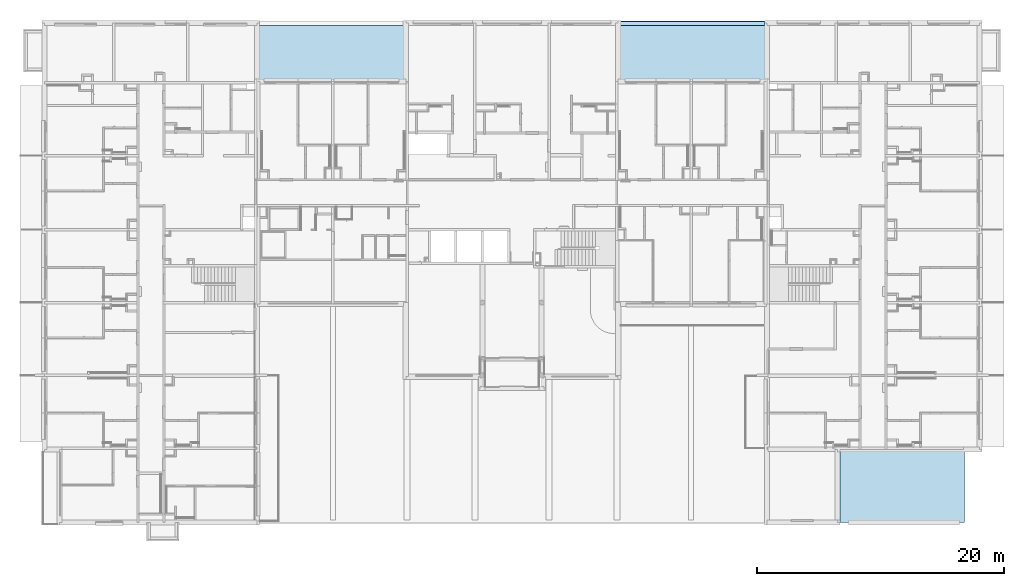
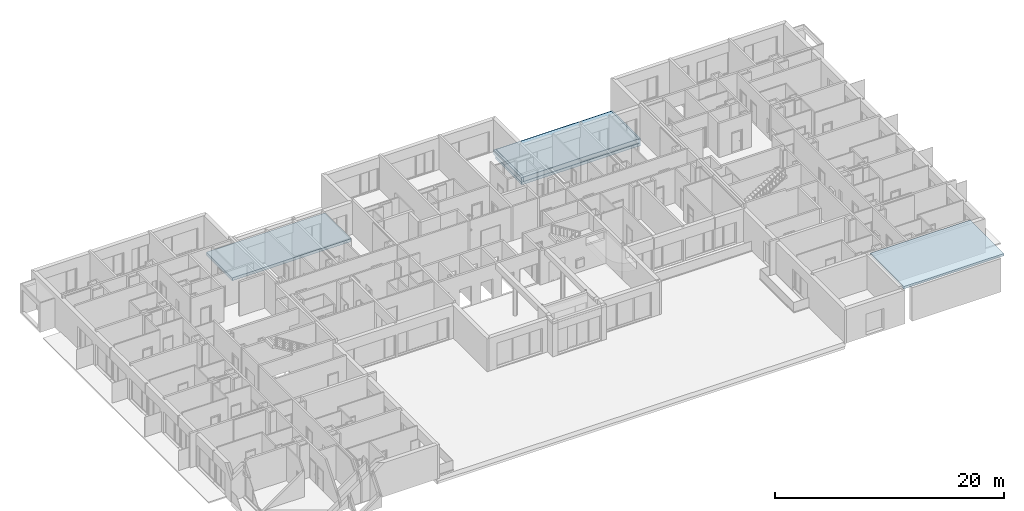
# One storey, part 3 of 46: 5 slabs.
"""IFC2X3 building model written with IfcOpenShell, lengths in millimetres."""

from ifc_helpers import new_model, entity, si_unit, converted_unit, derived_unit, money_unit, direction, frame, origin_with_axes, place, context, subcontext, project, spatial, faceted_brep, material, material_list, type_object, element, save


model = new_model("IFC2X3")

# Units and contexts
model_context = context("Model", 3, precision=0.01, world=origin_with_axes(), true_north=direction((0.34421633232, 0.938890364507)))
body_context = subcontext(model_context, "Body", "Model", "MODEL_VIEW")
ifc_project = project(units=[si_unit("LENGTHUNIT", "METRE", prefix="MILLI"), si_unit("AREAUNIT", "SQUARE_METRE"), si_unit("VOLUMEUNIT", "CUBIC_METRE"), converted_unit("PLANEANGLEUNIT", "DEGREE", entity("IfcPlaneAngleMeasure", 0.0174532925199), si_unit("PLANEANGLEUNIT", "RADIAN"), dimensions=[0, 0, 0, 0, 0, 0, 0]), si_unit("SOLIDANGLEUNIT", "STERADIAN"), money_unit("USD"), converted_unit("TIMEUNIT", "Year", entity("IfcTimeMeasure", 31556926.0), si_unit("TIMEUNIT", "SECOND"), dimensions=[0, 0, 1, 0, 0, 0, 0]), si_unit("MASSUNIT", "GRAM", prefix="KILO"), si_unit("THERMODYNAMICTEMPERATUREUNIT", "DEGREE_CELSIUS"), si_unit("LUMINOUSINTENSITYUNIT", "LUMEN"), si_unit("ENERGYUNIT", "JOULE", prefix="MEGA"), derived_unit("THERMALCONDUCTANCEUNIT", [(si_unit("POWERUNIT", "WATT"), 1), (si_unit("LENGTHUNIT", "METRE"), -1), (si_unit("THERMODYNAMICTEMPERATUREUNIT", "KELVIN"), -1)]), derived_unit("SPECIFICHEATCAPACITYUNIT", [(si_unit("ENERGYUNIT", "JOULE"), 1), (si_unit("MASSUNIT", "GRAM", prefix="KILO"), -1), (si_unit("THERMODYNAMICTEMPERATUREUNIT", "KELVIN"), -1)]), derived_unit("MASSDENSITYUNIT", [(si_unit("MASSUNIT", "GRAM", prefix="KILO"), 1), (si_unit("VOLUMEUNIT", "CUBIC_METRE"), -1)])], contexts=[model_context])

# Site, building, storey
site_placement = place(None, origin_with_axes())
site = spatial("IfcSite", under=ifc_project, at=site_placement, Name="USTRONIE MORSKIE", CompositionType="ELEMENT")
building_placement = place(site_placement, origin_with_axes())
building = spatial("IfcBuilding", under=site, at=building_placement, Name="Budynek", CompositionType="ELEMENT")
storey_placement = place(building_placement, origin_with_axes())
storey = spatial("IfcBuildingStorey", under=building, at=storey_placement, Name="PARTER", CompositionType="ELEMENT", Elevation=0.0)

# Slabs
ifc_material_1 = material(Name="Bloczki betonowe")
ifc_material_2 = material(Name="Piasek")
ifc_material_3 = material(Name="Membrana hydroizolacyjna")
ifc_material_4 = material(Name="Polistyren ekstrudowany")
ifc_material_5 = material(Name="Beton")
ifc_material_list = material_list([ifc_material_1, ifc_material_2, ifc_material_3, ifc_material_4, ifc_material_3, ifc_material_5])
slab_type_1 = type_object("IfcSlabType", Name="611-DS Wykonczenie teren komunikacja  480", PredefinedType="FLOOR")
slab_1_placement = place(storey_placement, frame((408417.920919, 744801.199027, -100.000000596), z_axis=(0.0, 0.0, 1.0), x_axis=(1.0, 0.0, 0.0)))
element("IfcSlab", 1, at=slab_1_placement, inside=storey, type_object=slab_type_1, material=ifc_material_list, Name="P2", PredefinedType="FLOOR", context=body_context, shape_type="Brep", body=[
    faceted_brep([(0.0, 0.0, -60.0), (0.0, 4910.00000905, -60.0), (0.0, 4910.00000905, 0.0), (0.0, 0.0, 0.0), (-12000.0, 0.0, -60.0), (-12000.0, 4910.00000905, -60.0), (-12000.0, 4910.00000905, 0.0), (-12000.0, 0.0, 0.0)], [[[0, 1, 2, 3]], [[1, 0, 4, 5]], [[1, 5, 6, 2]], [[7, 3, 2, 6]], [[4, 0, 3, 7]], [[5, 4, 7, 6]]]),
    faceted_brep([(0.0, 0.0, -125.0), (0.0, 4910.00000905, -125.0), (0.0, 4910.00000905, -60.0), (0.0, 0.0, -60.0), (-12000.0, 0.0, -125.0), (-12000.0, 4910.00000905, -125.0), (-12000.0, 4910.00000905, -60.0), (-12000.0, 0.0, -60.0)], [[[0, 1, 2, 3]], [[1, 0, 4, 5]], [[1, 5, 6, 2]], [[7, 3, 2, 6]], [[4, 0, 3, 7]], [[5, 4, 7, 6]]]),
    faceted_brep([(0.0, 0.0, -130.0), (0.0, 4910.00000905, -130.0), (0.0, 4910.00000905, -125.0), (0.0, 0.0, -125.0), (-12000.0, 0.0, -130.0), (-12000.0, 4910.00000905, -130.0), (-12000.0, 4910.00000905, -125.0), (-12000.0, 0.0, -125.0)], [[[0, 1, 2, 3]], [[1, 0, 4, 5]], [[1, 5, 6, 2]], [[7, 3, 2, 6]], [[4, 0, 3, 7]], [[5, 4, 7, 6]]]),
    faceted_brep([(0.0, 4910.00000905, -280.0), (0.0, 4910.00000905, -130.0), (0.0, 0.0, -130.0), (0.0, 0.0, -280.0), (-12000.0, 4910.00000905, -280.0), (-12000.0, 4910.00000905, -130.0), (-12000.0, 0.0, -130.0), (-12000.0, 0.0, -280.0)], [[[0, 1, 2, 3]], [[4, 5, 1, 0]], [[2, 1, 5, 6]], [[3, 2, 6, 7]], [[3, 7, 4, 0]], [[7, 6, 5, 4]]]),
    faceted_brep([(0.0, 4910.00000905, -285.0), (0.0, 4910.00000905, -280.0), (0.0, 0.0, -280.0), (0.0, 0.0, -285.0), (-12000.0, 4910.00000905, -285.0), (-12000.0, 4910.00000905, -280.0), (-12000.0, 0.0, -280.0), (-12000.0, 0.0, -285.0)], [[[0, 1, 2, 3]], [[4, 5, 1, 0]], [[2, 1, 5, 6]], [[3, 2, 6, 7]], [[3, 7, 4, 0]], [[7, 6, 5, 4]]]),
    faceted_brep([(0.0, 0.0, -480.0), (0.0, 4910.00000905, -480.0), (0.0, 4910.00000905, -285.0), (0.0, 0.0, -285.0), (-12000.0, 0.0, -480.0), (-12000.0, 4910.00000905, -480.0), (-12000.0, 4910.00000905, -285.0), (-12000.0, 0.0, -285.0)], [[[0, 1, 2, 3]], [[0, 4, 5, 1]], [[1, 5, 6, 2]], [[3, 2, 6, 7]], [[4, 0, 3, 7]], [[5, 4, 7, 6]]]),
])
slab_2_placement = place(storey_placement, frame((396617.380001, 749651.199036, -90.0), z_axis=(0.0, 0.0, 1.0), x_axis=(1.0, 0.0, 0.0)))
element("IfcSlab", 2, at=slab_2_placement, inside=storey, type_object=slab_type_1, material=ifc_material_list, Name="P3", PredefinedType="FLOOR", context=body_context, shape_type="Brep", body=[
    faceted_brep([(11650.5566582, -99.9999999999, -60.0), (11650.5566582, -99.9999999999, 0.0), (11650.5346261, -4850.0, 0.0), (11650.5346261, -4850.0, -60.0), (11650.5409184, -99.9999999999, 0.0), (11650.5409184, -99.9999999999, -60.0), (11650.5409184, 0.0, 0.0), (0.0, 0.0, 0.0), (-0.113482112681, -4850.0, 0.0), (-0.113482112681, -4850.0, -60.0), (0.0, 0.0, -60.0), (11650.5409184, 0.0, -60.0)], [[[0, 1, 2, 3]], [[4, 1, 0, 5]], [[4, 6, 7, 8, 2, 1]], [[9, 3, 2, 8]], [[5, 0, 3, 9, 10, 11]], [[11, 6, 4, 5]], [[6, 11, 10, 7]], [[10, 9, 8, 7]]]),
    faceted_brep([(11650.5566582, -99.9999999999, -125.0), (11650.5566582, -99.9999999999, -60.0), (11650.5346261, -4850.0, -60.0), (11650.5346261, -4850.0, -125.0), (11650.5409184, -99.9999999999, -60.0), (11650.5409184, -99.9999999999, -125.0), (11650.5409184, 0.0, -60.0), (0.0, 0.0, -60.0), (-0.113482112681, -4850.0, -60.0), (-0.113482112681, -4850.0, -125.0), (0.0, 0.0, -125.0), (11650.5409184, 0.0, -125.0)], [[[0, 1, 2, 3]], [[4, 1, 0, 5]], [[4, 6, 7, 8, 2, 1]], [[9, 3, 2, 8]], [[5, 0, 3, 9, 10, 11]], [[11, 6, 4, 5]], [[6, 11, 10, 7]], [[10, 9, 8, 7]]]),
    faceted_brep([(11650.5566582, -99.9999999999, -130.0), (11650.5566582, -99.9999999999, -125.0), (11650.5346261, -4850.0, -125.0), (11650.5346261, -4850.0, -130.0), (11650.5409184, -99.9999999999, -125.0), (11650.5409184, -99.9999999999, -130.0), (11650.5409184, 0.0, -125.0), (0.0, 0.0, -125.0), (-0.113482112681, -4850.0, -125.0), (-0.113482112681, -4850.0, -130.0), (0.0, 0.0, -130.0), (11650.5409184, 0.0, -130.0)], [[[0, 1, 2, 3]], [[4, 1, 0, 5]], [[4, 6, 7, 8, 2, 1]], [[9, 3, 2, 8]], [[5, 0, 3, 9, 10, 11]], [[11, 6, 4, 5]], [[6, 11, 10, 7]], [[10, 9, 8, 7]]]),
    faceted_brep([(11650.5409184, 0.0, -130.0), (11650.5409184, 0.0, -140.0), (11650.557122, 0.0, -140.0), (11650.557122, 0.0, -280.0), (0.0, 0.0, -280.0), (0.0, 0.0, -130.0), (11650.5409184, -99.9999999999, -130.0), (11650.5409184, -99.9999999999, -140.0), (11650.5566582, -99.9999999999, -140.0), (11650.5566582, -99.9999999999, -130.0), (11650.5346261, -4850.0, -130.0), (11650.5346261, -4850.0, -280.0), (-0.113482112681, -4850.0, -280.0), (-0.113482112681, -4850.0, -130.0)], [[[0, 1, 2, 3, 4, 5]], [[1, 0, 6, 7]], [[8, 2, 1, 7]], [[8, 9, 10, 11, 3, 2]], [[12, 4, 3, 11]], [[4, 12, 13, 5]], [[6, 0, 5, 13, 10, 9]], [[6, 9, 8, 7]], [[12, 11, 10, 13]]]),
    faceted_brep([(-0.113482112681, -4850.0, -285.0), (-0.113482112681, -4850.0, -280.0), (0.0, 0.0, -280.0), (0.0, 0.0, -285.0), (11650.5346261, -4850.0, -285.0), (11650.5346261, -4850.0, -280.0), (11650.557122, 0.0, -280.0), (11650.557122, 0.0, -285.0)], [[[0, 1, 2, 3]], [[4, 5, 1, 0]], [[2, 1, 5, 6]], [[3, 2, 6, 7]], [[3, 7, 4, 0]], [[7, 6, 5, 4]]]),
    faceted_brep([(0.0, 0.0, -480.0), (-0.113482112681, -4850.0, -480.0), (-0.113482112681, -4850.0, -285.0), (0.0, 0.0, -285.0), (11650.557122, 0.0, -480.0), (11650.5346261, -4850.0, -480.0), (11650.5346261, -4850.0, -285.0), (11650.557122, 0.0, -285.0)], [[[0, 1, 2, 3]], [[0, 4, 5, 1]], [[1, 5, 6, 2]], [[3, 2, 6, 7]], [[4, 0, 3, 7]], [[5, 4, 7, 6]]]),
])
ifc_material_6 = material(Name="Beton konstrukcyjny 01")
slab_type_2 = type_object("IfcSlabType", Name="Beton konstrukcyjny 01 300", PredefinedType="FLOOR")
slab_3_placement = place(storey_placement, frame((367217.920919, 744801.199027, -580.0), z_axis=(0.0, 0.0, 1.0), x_axis=(1.0, 0.0, 0.0)))
element("IfcSlab", 3, at=slab_3_placement, inside=storey, type_object=slab_type_2, material=ifc_material_6, Name="P3.1", PredefinedType="FLOOR", context=body_context, shape_type="Brep", body=[
    faceted_brep([(0.0, 0.0, 0.0), (0.0, 0.0, -300.0), (12000.0, 0.0, -300.0), (12000.0, 0.0, 0.0), (0.0, 4550.00000905, 0.0), (0.0, 4550.00000905, -300.0), (12000.0, 4550.00000905, -300.0), (12000.0, 4550.00000905, 0.0)], [[[0, 1, 2, 3]], [[4, 5, 1, 0]], [[2, 1, 5, 6]], [[3, 2, 6, 7]], [[4, 0, 3, 7]], [[7, 6, 5, 4]]]),
])
ifc_material_7 = material(Name="Wełna ELEW wysoki priorytet")
slab_type_3 = type_object("IfcSlabType", Name="Wełna ELEW wysoki priorytet 240", PredefinedType="FLOOR")
slab_4_placement = place(storey_placement, frame((414367.920919, 709101.199036, 3640.0), z_axis=(0.0, 0.0, 1.0), x_axis=(1.0, 0.0, 0.0)))
element("IfcSlab", 4, at=slab_4_placement, inside=storey, type_object=slab_type_3, material=ifc_material_7, Name="P2", PredefinedType="FLOOR", context=body_context, shape_type="Brep", body=[
    faceted_brep([(10100.0, 0.0, 0.0), (0.0, 0.0, 0.0), (0.0, 0.0, -240.0), (10100.0, 0.0, -240.0), (10100.0, 5900.0, 0.0), (0.0, 5900.0, 0.0), (0.0, 5900.0, -240.0), (10100.0, 5900.0, -240.0)], [[[0, 1, 2, 3]], [[4, 5, 1, 0]], [[1, 5, 6, 2]], [[7, 3, 2, 6]], [[4, 0, 3, 7]], [[5, 4, 7, 6]]]),
])
ifc_material_8 = material(Name="Beton konstrukcyjny B25")
slab_type_4 = type_object("IfcSlabType", Name="Beton konstrukcyjny B25 300", PredefinedType="FLOOR")
slab_5_placement = place(storey_placement, frame((408417.920919, 744801.199027, -580.0), z_axis=(0.0, 0.0, 1.0), x_axis=(1.0, 0.0, 0.0)))
element("IfcSlab", 5, at=slab_5_placement, inside=storey, type_object=slab_type_4, material=ifc_material_8, Name="P3.1", PredefinedType="FLOOR", context=body_context, shape_type="Brep", body=[
    faceted_brep([(0.0, 0.0, 0.0), (0.0, 0.0, -300.0), (0.0, 4550.00000905, -300.0), (0.0, 4550.00000905, 0.0), (-12000.0, 0.0, 0.0), (-12000.0, 0.0, -300.0), (-12000.0, 4550.00000905, -300.0), (-12000.0, 4550.00000905, 0.0)], [[[0, 1, 2, 3]], [[4, 5, 1, 0]], [[2, 1, 5, 6]], [[3, 2, 6, 7]], [[4, 0, 3, 7]], [[7, 6, 5, 4]]]),
])

save(model, "model.ifc")
